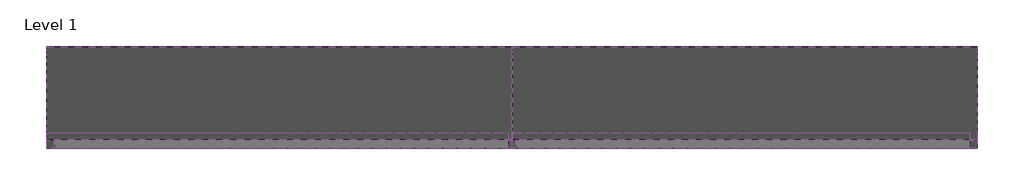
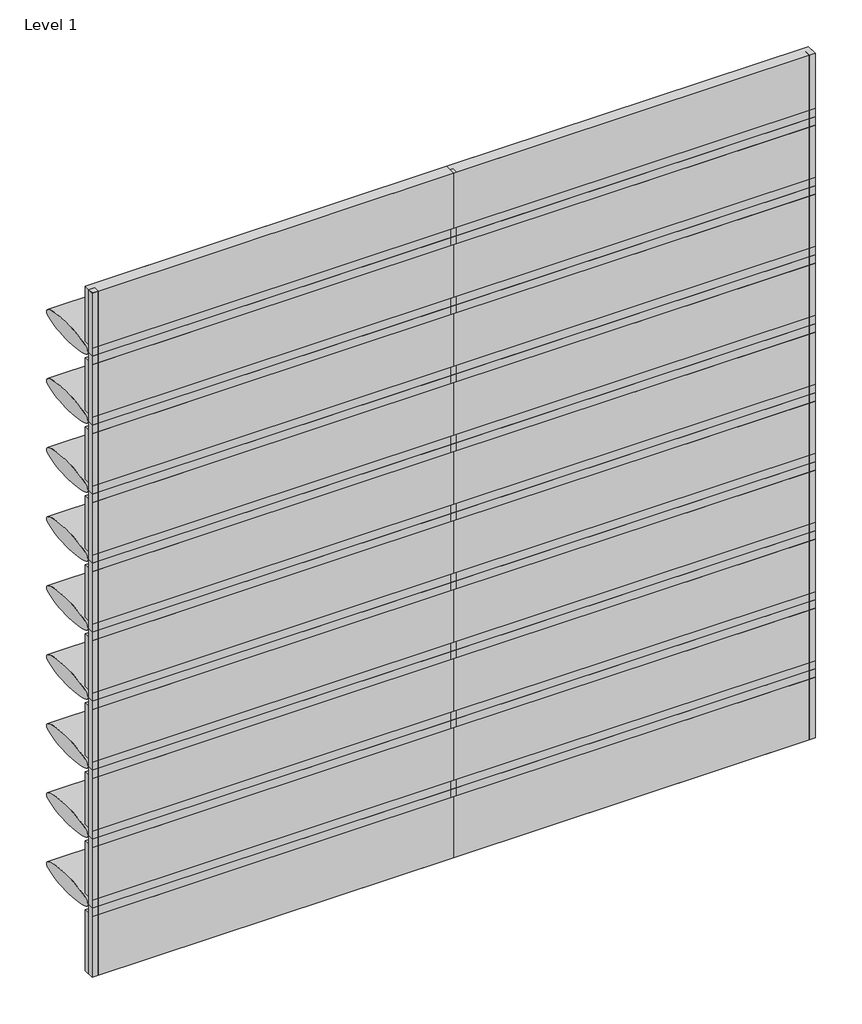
# One storey: 48 members, 40 plates.
"""IFC4 building model written with IfcOpenShell, lengths in millimetres."""

from ifc_helpers import new_model, si_unit, origin, place, context, project, spatial, transform, mapped, element, save
from components import rectangular_mullion_382eacee, rectangular_mullion_543a06af, rectangular_mullion_fcffcf6d, rectangular_mullion_1c998518, rectangular_mullion_4d0e3d15, rectangular_mullion_d8201ae5, rectangular_mullion_6e5ba28d, empty_system_panel_empty_3d88d0b6, empty_system_panel_empty_78674245, empty_system_panel_empty_4af019a5, empty_system_panel_empty_714687c1, empty_system_panel_empty_0677d599

model = new_model("IFC4")

# Units and contexts
model_context = context("Model", 3, world=origin())
ifc_project = project(units=[si_unit("LENGTHUNIT", "METRE", prefix="MILLI")], contexts=[model_context])

# Site, building, storey
site = spatial("IfcSite", under=ifc_project)
building = spatial("IfcBuilding", under=site)
storey = spatial("IfcBuildingStorey", under=building, Name="Level 1", Elevation=0.0)

# Members
placement = place(None, origin())
rectangular_mullion_shape = rectangular_mullion_382eacee(model_context)
element("IfcMember", 1, ObjectType="Rectangular Mullion : RSen_21_CWM_blade - wing 600 - 0° perforated_gen_duco projects", at=placement, inside=storey, context=model_context, shape_type="MappedRepresentation", body=[
    mapped(rectangular_mullion_shape, transform((3000.0, 3000.0, 605.0), x_axis=(0.0, 0.0, 1.0), y_axis=(0.0, 1.0, 0.0), z_axis=(-1.0, 0.0, 0.0))),
])
element("IfcMember", 2, ObjectType="Rectangular Mullion : RSen_21_CWM_blade - wing 600 - 0° perforated_gen_duco projects", at=placement, inside=storey, context=model_context, shape_type="MappedRepresentation", body=[
    mapped(rectangular_mullion_shape, transform((3000.0, 3000.0, 1210.0), x_axis=(0.0, 0.0, 1.0), y_axis=(0.0, 1.0, 0.0), z_axis=(-1.0, 0.0, 0.0))),
])
element("IfcMember", 3, ObjectType="Rectangular Mullion : RSen_21_CWM_blade - wing 600 - 0° perforated_gen_duco projects", at=placement, inside=storey, context=model_context, shape_type="MappedRepresentation", body=[
    mapped(rectangular_mullion_shape, transform((3000.0, 3000.0, 1815.0), x_axis=(0.0, 0.0, 1.0), y_axis=(0.0, 1.0, 0.0), z_axis=(-1.0, 0.0, 0.0))),
])
element("IfcMember", 4, ObjectType="Rectangular Mullion : RSen_21_CWM_blade - wing 600 - 0° perforated_gen_duco projects", at=placement, inside=storey, context=model_context, shape_type="MappedRepresentation", body=[
    mapped(rectangular_mullion_shape, transform((3000.0, 3000.0, 2420.0), x_axis=(0.0, 0.0, 1.0), y_axis=(0.0, 1.0, 0.0), z_axis=(-1.0, 0.0, 0.0))),
])
element("IfcMember", 5, ObjectType="Rectangular Mullion : RSen_21_CWM_blade - wing 600 - 0° perforated_gen_duco projects", at=placement, inside=storey, context=model_context, shape_type="MappedRepresentation", body=[
    mapped(rectangular_mullion_shape, transform((3000.0, 3000.0, 3025.0), x_axis=(0.0, 0.0, 1.0), y_axis=(0.0, 1.0, 0.0), z_axis=(-1.0, 0.0, 0.0))),
])
element("IfcMember", 6, ObjectType="Rectangular Mullion : RSen_21_CWM_blade - wing 600 - 0° perforated_gen_duco projects", at=placement, inside=storey, context=model_context, shape_type="MappedRepresentation", body=[
    mapped(rectangular_mullion_shape, transform((3000.0, 3000.0, 3630.0), x_axis=(0.0, 0.0, 1.0), y_axis=(0.0, 1.0, 0.0), z_axis=(-1.0, 0.0, 0.0))),
])
element("IfcMember", 7, ObjectType="Rectangular Mullion : RSen_21_CWM_blade - wing 600 - 0° perforated_gen_duco projects", at=placement, inside=storey, context=model_context, shape_type="MappedRepresentation", body=[
    mapped(rectangular_mullion_shape, transform((3000.0, 3000.0, 4235.0), x_axis=(0.0, 0.0, 1.0), y_axis=(0.0, 1.0, 0.0), z_axis=(-1.0, 0.0, 0.0))),
])
element("IfcMember", 8, ObjectType="Rectangular Mullion : RSen_21_CWM_blade - wing 600 - 0° perforated_gen_duco projects", at=placement, inside=storey, context=model_context, shape_type="MappedRepresentation", body=[
    mapped(rectangular_mullion_shape, transform((3000.0, 3000.0, 4840.0), x_axis=(0.0, 0.0, 1.0), y_axis=(0.0, 1.0, 0.0), z_axis=(-1.0, 0.0, 0.0))),
])
element("IfcMember", 9, ObjectType="Rectangular Mullion : RSen_21_CWM_blade - wing 600 - 0° perforated_gen_duco projects", at=placement, inside=storey, context=model_context, shape_type="MappedRepresentation", body=[
    mapped(rectangular_mullion_shape, transform((3000.0, 3000.0, 5445.0), x_axis=(0.0, 0.0, 1.0), y_axis=(0.0, 1.0, 0.0), z_axis=(-1.0, 0.0, 0.0))),
])
element("IfcMember", 10, ObjectType="Rectangular Mullion : RSen_21_CWM_blade - wing 600 - 0° perforated_gen_duco projects", at=placement, inside=storey, context=model_context, shape_type="MappedRepresentation", body=[
    mapped(rectangular_mullion_shape, transform((0.0, 3000.0, 605.0), x_axis=(0.0, 0.0, 1.0), y_axis=(0.0, 1.0, 0.0), z_axis=(-1.0, 0.0, 0.0))),
])
element("IfcMember", 11, ObjectType="Rectangular Mullion : RSen_21_CWM_blade - wing 600 - 0° perforated_gen_duco projects", at=placement, inside=storey, context=model_context, shape_type="MappedRepresentation", body=[
    mapped(rectangular_mullion_shape, transform((0.0, 3000.0, 1210.0), x_axis=(0.0, 0.0, 1.0), y_axis=(0.0, 1.0, 0.0), z_axis=(-1.0, 0.0, 0.0))),
])
element("IfcMember", 12, ObjectType="Rectangular Mullion : RSen_21_CWM_blade - wing 600 - 0° perforated_gen_duco projects", at=placement, inside=storey, context=model_context, shape_type="MappedRepresentation", body=[
    mapped(rectangular_mullion_shape, transform((0.0, 3000.0, 1815.0), x_axis=(0.0, 0.0, 1.0), y_axis=(0.0, 1.0, 0.0), z_axis=(-1.0, 0.0, 0.0))),
])
element("IfcMember", 13, ObjectType="Rectangular Mullion : RSen_21_CWM_blade - wing 600 - 0° perforated_gen_duco projects", at=placement, inside=storey, context=model_context, shape_type="MappedRepresentation", body=[
    mapped(rectangular_mullion_shape, transform((0.0, 3000.0, 2420.0), x_axis=(0.0, 0.0, 1.0), y_axis=(0.0, 1.0, 0.0), z_axis=(-1.0, 0.0, 0.0))),
])
element("IfcMember", 14, ObjectType="Rectangular Mullion : RSen_21_CWM_blade - wing 600 - 0° perforated_gen_duco projects", at=placement, inside=storey, context=model_context, shape_type="MappedRepresentation", body=[
    mapped(rectangular_mullion_shape, transform((0.0, 3000.0, 3025.0), x_axis=(0.0, 0.0, 1.0), y_axis=(0.0, 1.0, 0.0), z_axis=(-1.0, 0.0, 0.0))),
])
element("IfcMember", 15, ObjectType="Rectangular Mullion : RSen_21_CWM_blade - wing 600 - 0° perforated_gen_duco projects", at=placement, inside=storey, context=model_context, shape_type="MappedRepresentation", body=[
    mapped(rectangular_mullion_shape, transform((0.0, 3000.0, 3630.0), x_axis=(0.0, 0.0, 1.0), y_axis=(0.0, 1.0, 0.0), z_axis=(-1.0, 0.0, 0.0))),
])
element("IfcMember", 16, ObjectType="Rectangular Mullion : RSen_21_CWM_blade - wing 600 - 0° perforated_gen_duco projects", at=placement, inside=storey, context=model_context, shape_type="MappedRepresentation", body=[
    mapped(rectangular_mullion_shape, transform((0.0, 3000.0, 4235.0), x_axis=(0.0, 0.0, 1.0), y_axis=(0.0, 1.0, 0.0), z_axis=(-1.0, 0.0, 0.0))),
])
element("IfcMember", 17, ObjectType="Rectangular Mullion : RSen_21_CWM_blade - wing 600 - 0° perforated_gen_duco projects", at=placement, inside=storey, context=model_context, shape_type="MappedRepresentation", body=[
    mapped(rectangular_mullion_shape, transform((0.0, 3000.0, 4840.0), x_axis=(0.0, 0.0, 1.0), y_axis=(0.0, 1.0, 0.0), z_axis=(-1.0, 0.0, 0.0))),
])
element("IfcMember", 18, ObjectType="Rectangular Mullion : RSen_21_CWM_blade - wing 600 - 0° perforated_gen_duco projects", at=placement, inside=storey, context=model_context, shape_type="MappedRepresentation", body=[
    mapped(rectangular_mullion_shape, transform((0.0, 3000.0, 5445.0), x_axis=(0.0, 0.0, 1.0), y_axis=(0.0, 1.0, 0.0), z_axis=(-1.0, 0.0, 0.0))),
])
rectangular_mullion_2_shape = rectangular_mullion_543a06af(model_context)
element("IfcMember", 19, ObjectType="Rectangular Mullion : RSen_21_CWM_support profile 50x50_gen_duco projects", at=placement, inside=storey, context=model_context, shape_type="MappedRepresentation", body=[
    mapped(rectangular_mullion_2_shape, transform((3000.0, 3000.0, 0.0), x_axis=(-1.0, 0.0, 0.0), y_axis=(0.0, 1.0, 0.0), z_axis=(0.0, 0.0, -1.0))),
])
element("IfcMember", 20, ObjectType="Rectangular Mullion : RSen_21_CWM_support profile 50x50_gen_duco projects", at=placement, inside=storey, context=model_context, shape_type="MappedRepresentation", body=[
    mapped(rectangular_mullion_2_shape, transform((3000.0, 3000.0, 605.0), x_axis=(-1.0, 0.0, 0.0), y_axis=(0.0, 1.0, 0.0), z_axis=(0.0, 0.0, -1.0))),
])
element("IfcMember", 21, ObjectType="Rectangular Mullion : RSen_21_CWM_support profile 50x50_gen_duco projects", at=placement, inside=storey, context=model_context, shape_type="MappedRepresentation", body=[
    mapped(rectangular_mullion_2_shape, transform((3000.0, 3000.0, 1210.0), x_axis=(-1.0, 0.0, 0.0), y_axis=(0.0, 1.0, 0.0), z_axis=(0.0, 0.0, -1.0))),
])
element("IfcMember", 22, ObjectType="Rectangular Mullion : RSen_21_CWM_support profile 50x50_gen_duco projects", at=placement, inside=storey, context=model_context, shape_type="MappedRepresentation", body=[
    mapped(rectangular_mullion_2_shape, transform((3000.0, 3000.0, 1815.0), x_axis=(-1.0, 0.0, 0.0), y_axis=(0.0, 1.0, 0.0), z_axis=(0.0, 0.0, -1.0))),
])
element("IfcMember", 23, ObjectType="Rectangular Mullion : RSen_21_CWM_support profile 50x50_gen_duco projects", at=placement, inside=storey, context=model_context, shape_type="MappedRepresentation", body=[
    mapped(rectangular_mullion_2_shape, transform((3000.0, 3000.0, 2420.0), x_axis=(-1.0, 0.0, 0.0), y_axis=(0.0, 1.0, 0.0), z_axis=(0.0, 0.0, -1.0))),
])
element("IfcMember", 24, ObjectType="Rectangular Mullion : RSen_21_CWM_support profile 50x50_gen_duco projects", at=placement, inside=storey, context=model_context, shape_type="MappedRepresentation", body=[
    mapped(rectangular_mullion_2_shape, transform((3000.0, 3000.0, 3025.0), x_axis=(-1.0, 0.0, 0.0), y_axis=(0.0, 1.0, 0.0), z_axis=(0.0, 0.0, -1.0))),
])
element("IfcMember", 25, ObjectType="Rectangular Mullion : RSen_21_CWM_support profile 50x50_gen_duco projects", at=placement, inside=storey, context=model_context, shape_type="MappedRepresentation", body=[
    mapped(rectangular_mullion_2_shape, transform((3000.0, 3000.0, 3630.0), x_axis=(-1.0, 0.0, 0.0), y_axis=(0.0, 1.0, 0.0), z_axis=(0.0, 0.0, -1.0))),
])
element("IfcMember", 26, ObjectType="Rectangular Mullion : RSen_21_CWM_support profile 50x50_gen_duco projects", at=placement, inside=storey, context=model_context, shape_type="MappedRepresentation", body=[
    mapped(rectangular_mullion_2_shape, transform((3000.0, 3000.0, 4235.0), x_axis=(-1.0, 0.0, 0.0), y_axis=(0.0, 1.0, 0.0), z_axis=(0.0, 0.0, -1.0))),
])
element("IfcMember", 27, ObjectType="Rectangular Mullion : RSen_21_CWM_support profile 50x50_gen_duco projects", at=placement, inside=storey, context=model_context, shape_type="MappedRepresentation", body=[
    mapped(rectangular_mullion_2_shape, transform((3000.0, 3000.0, 4840.0), x_axis=(-1.0, 0.0, 0.0), y_axis=(0.0, 1.0, 0.0), z_axis=(0.0, 0.0, -1.0))),
])
rectangular_mullion_3_shape = rectangular_mullion_fcffcf6d(model_context)
element("IfcMember", 28, ObjectType="Rectangular Mullion : RSen_21_CWM_support profile 50x50_gen_duco projects", at=placement, inside=storey, context=model_context, shape_type="MappedRepresentation", body=[
    mapped(rectangular_mullion_3_shape, transform((3000.0, 3000.0, 5445.0), x_axis=(-1.0, 0.0, 0.0), y_axis=(0.0, 1.0, 0.0), z_axis=(0.0, 0.0, -1.0))),
])
rectangular_mullion_4_shape = rectangular_mullion_1c998518(model_context)
element("IfcMember", 29, ObjectType="Rectangular Mullion : RSen_21_CWM_support profile 50x50 - left_gen_duco projects", at=placement, inside=storey, context=model_context, shape_type="MappedRepresentation", body=[
    mapped(rectangular_mullion_4_shape, transform((0.0, 3000.0, 0.0), x_axis=(-1.0, 0.0, 0.0), y_axis=(0.0, 1.0, 0.0), z_axis=(0.0, 0.0, -1.0))),
])
rectangular_mullion_5_shape = rectangular_mullion_4d0e3d15(model_context)
element("IfcMember", 30, ObjectType="Rectangular Mullion : RSen_21_CWM_support profile 50x50 - right_gen_duco projects", at=placement, inside=storey, context=model_context, shape_type="MappedRepresentation", body=[
    mapped(rectangular_mullion_5_shape, transform((6000.0, 3000.0, 6000.0), x_axis=(1.0, 0.0, 0.0), y_axis=(0.0, 1.0, 0.0), z_axis=(0.0, 0.0, 1.0))),
])
element("IfcMember", 31, ObjectType="Rectangular Mullion : RSen_21_CWM_support profile 50x50 - left_gen_duco projects", at=placement, inside=storey, context=model_context, shape_type="MappedRepresentation", body=[
    mapped(rectangular_mullion_4_shape, transform((0.0, 3000.0, 605.0), x_axis=(-1.0, 0.0, 0.0), y_axis=(0.0, 1.0, 0.0), z_axis=(0.0, 0.0, -1.0))),
])
element("IfcMember", 32, ObjectType="Rectangular Mullion : RSen_21_CWM_support profile 50x50 - left_gen_duco projects", at=placement, inside=storey, context=model_context, shape_type="MappedRepresentation", body=[
    mapped(rectangular_mullion_4_shape, transform((0.0, 3000.0, 1210.0), x_axis=(-1.0, 0.0, 0.0), y_axis=(0.0, 1.0, 0.0), z_axis=(0.0, 0.0, -1.0))),
])
element("IfcMember", 33, ObjectType="Rectangular Mullion : RSen_21_CWM_support profile 50x50 - left_gen_duco projects", at=placement, inside=storey, context=model_context, shape_type="MappedRepresentation", body=[
    mapped(rectangular_mullion_4_shape, transform((0.0, 3000.0, 1815.0), x_axis=(-1.0, 0.0, 0.0), y_axis=(0.0, 1.0, 0.0), z_axis=(0.0, 0.0, -1.0))),
])
element("IfcMember", 34, ObjectType="Rectangular Mullion : RSen_21_CWM_support profile 50x50 - left_gen_duco projects", at=placement, inside=storey, context=model_context, shape_type="MappedRepresentation", body=[
    mapped(rectangular_mullion_4_shape, transform((0.0, 3000.0, 2420.0), x_axis=(-1.0, 0.0, 0.0), y_axis=(0.0, 1.0, 0.0), z_axis=(0.0, 0.0, -1.0))),
])
element("IfcMember", 35, ObjectType="Rectangular Mullion : RSen_21_CWM_support profile 50x50 - left_gen_duco projects", at=placement, inside=storey, context=model_context, shape_type="MappedRepresentation", body=[
    mapped(rectangular_mullion_4_shape, transform((0.0, 3000.0, 3025.0), x_axis=(-1.0, 0.0, 0.0), y_axis=(0.0, 1.0, 0.0), z_axis=(0.0, 0.0, -1.0))),
])
element("IfcMember", 36, ObjectType="Rectangular Mullion : RSen_21_CWM_support profile 50x50 - left_gen_duco projects", at=placement, inside=storey, context=model_context, shape_type="MappedRepresentation", body=[
    mapped(rectangular_mullion_4_shape, transform((0.0, 3000.0, 3630.0), x_axis=(-1.0, 0.0, 0.0), y_axis=(0.0, 1.0, 0.0), z_axis=(0.0, 0.0, -1.0))),
])
element("IfcMember", 37, ObjectType="Rectangular Mullion : RSen_21_CWM_support profile 50x50 - left_gen_duco projects", at=placement, inside=storey, context=model_context, shape_type="MappedRepresentation", body=[
    mapped(rectangular_mullion_4_shape, transform((0.0, 3000.0, 4235.0), x_axis=(-1.0, 0.0, 0.0), y_axis=(0.0, 1.0, 0.0), z_axis=(0.0, 0.0, -1.0))),
])
element("IfcMember", 38, ObjectType="Rectangular Mullion : RSen_21_CWM_support profile 50x50 - left_gen_duco projects", at=placement, inside=storey, context=model_context, shape_type="MappedRepresentation", body=[
    mapped(rectangular_mullion_4_shape, transform((0.0, 3000.0, 4840.0), x_axis=(-1.0, 0.0, 0.0), y_axis=(0.0, 1.0, 0.0), z_axis=(0.0, 0.0, -1.0))),
])
rectangular_mullion_6_shape = rectangular_mullion_d8201ae5(model_context)
element("IfcMember", 39, ObjectType="Rectangular Mullion : RSen_21_CWM_support profile 50x50 - left_gen_duco projects", at=placement, inside=storey, context=model_context, shape_type="MappedRepresentation", body=[
    mapped(rectangular_mullion_6_shape, transform((0.0, 3000.0, 5445.0), x_axis=(-1.0, 0.0, 0.0), y_axis=(0.0, 1.0, 0.0), z_axis=(0.0, 0.0, -1.0))),
])
rectangular_mullion_7_shape = rectangular_mullion_6e5ba28d(model_context)
element("IfcMember", 40, ObjectType="Rectangular Mullion : RSen_21_CWM_support profile 50x50 - right_gen_duco projects", at=placement, inside=storey, context=model_context, shape_type="MappedRepresentation", body=[
    mapped(rectangular_mullion_7_shape, transform((6000.0, 3000.0, 605.0), x_axis=(1.0, 0.0, 0.0), y_axis=(0.0, 1.0, 0.0), z_axis=(0.0, 0.0, 1.0))),
])
element("IfcMember", 41, ObjectType="Rectangular Mullion : RSen_21_CWM_support profile 50x50 - right_gen_duco projects", at=placement, inside=storey, context=model_context, shape_type="MappedRepresentation", body=[
    mapped(rectangular_mullion_7_shape, transform((6000.0, 3000.0, 1210.0), x_axis=(1.0, 0.0, 0.0), y_axis=(0.0, 1.0, 0.0), z_axis=(0.0, 0.0, 1.0))),
])
element("IfcMember", 42, ObjectType="Rectangular Mullion : RSen_21_CWM_support profile 50x50 - right_gen_duco projects", at=placement, inside=storey, context=model_context, shape_type="MappedRepresentation", body=[
    mapped(rectangular_mullion_7_shape, transform((6000.0, 3000.0, 1815.0), x_axis=(1.0, 0.0, 0.0), y_axis=(0.0, 1.0, 0.0), z_axis=(0.0, 0.0, 1.0))),
])
element("IfcMember", 43, ObjectType="Rectangular Mullion : RSen_21_CWM_support profile 50x50 - right_gen_duco projects", at=placement, inside=storey, context=model_context, shape_type="MappedRepresentation", body=[
    mapped(rectangular_mullion_7_shape, transform((6000.0, 3000.0, 2420.0), x_axis=(1.0, 0.0, 0.0), y_axis=(0.0, 1.0, 0.0), z_axis=(0.0, 0.0, 1.0))),
])
element("IfcMember", 44, ObjectType="Rectangular Mullion : RSen_21_CWM_support profile 50x50 - right_gen_duco projects", at=placement, inside=storey, context=model_context, shape_type="MappedRepresentation", body=[
    mapped(rectangular_mullion_7_shape, transform((6000.0, 3000.0, 3025.0), x_axis=(1.0, 0.0, 0.0), y_axis=(0.0, 1.0, 0.0), z_axis=(0.0, 0.0, 1.0))),
])
element("IfcMember", 45, ObjectType="Rectangular Mullion : RSen_21_CWM_support profile 50x50 - right_gen_duco projects", at=placement, inside=storey, context=model_context, shape_type="MappedRepresentation", body=[
    mapped(rectangular_mullion_7_shape, transform((6000.0, 3000.0, 3630.0), x_axis=(1.0, 0.0, 0.0), y_axis=(0.0, 1.0, 0.0), z_axis=(0.0, 0.0, 1.0))),
])
element("IfcMember", 46, ObjectType="Rectangular Mullion : RSen_21_CWM_support profile 50x50 - right_gen_duco projects", at=placement, inside=storey, context=model_context, shape_type="MappedRepresentation", body=[
    mapped(rectangular_mullion_7_shape, transform((6000.0, 3000.0, 4235.0), x_axis=(1.0, 0.0, 0.0), y_axis=(0.0, 1.0, 0.0), z_axis=(0.0, 0.0, 1.0))),
])
element("IfcMember", 47, ObjectType="Rectangular Mullion : RSen_21_CWM_support profile 50x50 - right_gen_duco projects", at=placement, inside=storey, context=model_context, shape_type="MappedRepresentation", body=[
    mapped(rectangular_mullion_7_shape, transform((6000.0, 3000.0, 4840.0), x_axis=(1.0, 0.0, 0.0), y_axis=(0.0, 1.0, 0.0), z_axis=(0.0, 0.0, 1.0))),
])
element("IfcMember", 48, ObjectType="Rectangular Mullion : RSen_21_CWM_support profile 50x50 - right_gen_duco projects", at=placement, inside=storey, context=model_context, shape_type="MappedRepresentation", body=[
    mapped(rectangular_mullion_7_shape, transform((6000.0, 3000.0, 5445.0), x_axis=(1.0, 0.0, 0.0), y_axis=(0.0, 1.0, 0.0), z_axis=(0.0, 0.0, 1.0))),
])

# Plates
empty_system_panel_empty_shape = empty_system_panel_empty_3d88d0b6(model_context)
element("IfcPlate", 49, ObjectType="Empty System Panel : Empty", at=placement, inside=storey, context=model_context, shape_type="MappedRepresentation", body=[
    mapped(empty_system_panel_empty_shape, transform((4500.0, 3000.0, 0.0), x_axis=(-1.0, 0.0, 0.0), y_axis=(0.0, -1.0, 0.0), z_axis=(0.0, 0.0, 1.0))),
])
element("IfcPlate", 50, ObjectType="Empty System Panel : Empty", at=placement, inside=storey, context=model_context, shape_type="MappedRepresentation", body=[
    mapped(empty_system_panel_empty_shape, transform((1500.0, 3000.0, 0.0), x_axis=(-1.0, 0.0, 0.0), y_axis=(0.0, -1.0, 0.0), z_axis=(0.0, 0.0, 1.0))),
])
empty_system_panel_empty_2_shape = empty_system_panel_empty_78674245(model_context)
element("IfcPlate", 51, ObjectType="Empty System Panel : Empty", at=placement, inside=storey, context=model_context, shape_type="MappedRepresentation", body=[
    mapped(empty_system_panel_empty_2_shape, transform((4500.0, 3000.0, 678.0), x_axis=(-1.0, 0.0, 0.0), y_axis=(0.0, -1.0, 0.0), z_axis=(0.0, 0.0, 1.0))),
])
element("IfcPlate", 52, ObjectType="Empty System Panel : Empty", at=placement, inside=storey, context=model_context, shape_type="MappedRepresentation", body=[
    mapped(empty_system_panel_empty_2_shape, transform((1500.0, 3000.0, 678.0), x_axis=(-1.0, 0.0, 0.0), y_axis=(0.0, -1.0, 0.0), z_axis=(0.0, 0.0, 1.0))),
])
element("IfcPlate", 53, ObjectType="Empty System Panel : Empty", at=placement, inside=storey, context=model_context, shape_type="MappedRepresentation", body=[
    mapped(empty_system_panel_empty_2_shape, transform((4500.0, 3000.0, 1283.0), x_axis=(-1.0, 0.0, 0.0), y_axis=(0.0, -1.0, 0.0), z_axis=(0.0, 0.0, 1.0))),
])
element("IfcPlate", 54, ObjectType="Empty System Panel : Empty", at=placement, inside=storey, context=model_context, shape_type="MappedRepresentation", body=[
    mapped(empty_system_panel_empty_2_shape, transform((1500.0, 3000.0, 1283.0), x_axis=(-1.0, 0.0, 0.0), y_axis=(0.0, -1.0, 0.0), z_axis=(0.0, 0.0, 1.0))),
])
element("IfcPlate", 55, ObjectType="Empty System Panel : Empty", at=placement, inside=storey, context=model_context, shape_type="MappedRepresentation", body=[
    mapped(empty_system_panel_empty_2_shape, transform((4500.0, 3000.0, 1888.0), x_axis=(-1.0, 0.0, 0.0), y_axis=(0.0, -1.0, 0.0), z_axis=(0.0, 0.0, 1.0))),
])
element("IfcPlate", 56, ObjectType="Empty System Panel : Empty", at=placement, inside=storey, context=model_context, shape_type="MappedRepresentation", body=[
    mapped(empty_system_panel_empty_2_shape, transform((1500.0, 3000.0, 1888.0), x_axis=(-1.0, 0.0, 0.0), y_axis=(0.0, -1.0, 0.0), z_axis=(0.0, 0.0, 1.0))),
])
element("IfcPlate", 57, ObjectType="Empty System Panel : Empty", at=placement, inside=storey, context=model_context, shape_type="MappedRepresentation", body=[
    mapped(empty_system_panel_empty_2_shape, transform((4500.0, 3000.0, 2493.0), x_axis=(-1.0, 0.0, 0.0), y_axis=(0.0, -1.0, 0.0), z_axis=(0.0, 0.0, 1.0))),
])
element("IfcPlate", 58, ObjectType="Empty System Panel : Empty", at=placement, inside=storey, context=model_context, shape_type="MappedRepresentation", body=[
    mapped(empty_system_panel_empty_2_shape, transform((1500.0, 3000.0, 2493.0), x_axis=(-1.0, 0.0, 0.0), y_axis=(0.0, -1.0, 0.0), z_axis=(0.0, 0.0, 1.0))),
])
element("IfcPlate", 59, ObjectType="Empty System Panel : Empty", at=placement, inside=storey, context=model_context, shape_type="MappedRepresentation", body=[
    mapped(empty_system_panel_empty_2_shape, transform((4500.0, 3000.0, 3098.0), x_axis=(-1.0, 0.0, 0.0), y_axis=(0.0, -1.0, 0.0), z_axis=(0.0, 0.0, 1.0))),
])
element("IfcPlate", 60, ObjectType="Empty System Panel : Empty", at=placement, inside=storey, context=model_context, shape_type="MappedRepresentation", body=[
    mapped(empty_system_panel_empty_2_shape, transform((1500.0, 3000.0, 3098.0), x_axis=(-1.0, 0.0, 0.0), y_axis=(0.0, -1.0, 0.0), z_axis=(0.0, 0.0, 1.0))),
])
element("IfcPlate", 61, ObjectType="Empty System Panel : Empty", at=placement, inside=storey, context=model_context, shape_type="MappedRepresentation", body=[
    mapped(empty_system_panel_empty_2_shape, transform((4500.0, 3000.0, 3703.0), x_axis=(-1.0, 0.0, 0.0), y_axis=(0.0, -1.0, 0.0), z_axis=(0.0, 0.0, 1.0))),
])
element("IfcPlate", 62, ObjectType="Empty System Panel : Empty", at=placement, inside=storey, context=model_context, shape_type="MappedRepresentation", body=[
    mapped(empty_system_panel_empty_2_shape, transform((1500.0, 3000.0, 3703.0), x_axis=(-1.0, 0.0, 0.0), y_axis=(0.0, -1.0, 0.0), z_axis=(0.0, 0.0, 1.0))),
])
element("IfcPlate", 63, ObjectType="Empty System Panel : Empty", at=placement, inside=storey, context=model_context, shape_type="MappedRepresentation", body=[
    mapped(empty_system_panel_empty_2_shape, transform((4500.0, 3000.0, 4308.0), x_axis=(-1.0, 0.0, 0.0), y_axis=(0.0, -1.0, 0.0), z_axis=(0.0, 0.0, 1.0))),
])
element("IfcPlate", 64, ObjectType="Empty System Panel : Empty", at=placement, inside=storey, context=model_context, shape_type="MappedRepresentation", body=[
    mapped(empty_system_panel_empty_2_shape, transform((1500.0, 3000.0, 4308.0), x_axis=(-1.0, 0.0, 0.0), y_axis=(0.0, -1.0, 0.0), z_axis=(0.0, 0.0, 1.0))),
])
element("IfcPlate", 65, ObjectType="Empty System Panel : Empty", at=placement, inside=storey, context=model_context, shape_type="MappedRepresentation", body=[
    mapped(empty_system_panel_empty_2_shape, transform((4500.0, 3000.0, 4913.0), x_axis=(-1.0, 0.0, 0.0), y_axis=(0.0, -1.0, 0.0), z_axis=(0.0, 0.0, 1.0))),
])
element("IfcPlate", 66, ObjectType="Empty System Panel : Empty", at=placement, inside=storey, context=model_context, shape_type="MappedRepresentation", body=[
    mapped(empty_system_panel_empty_2_shape, transform((1500.0, 3000.0, 4913.0), x_axis=(-1.0, 0.0, 0.0), y_axis=(0.0, -1.0, 0.0), z_axis=(0.0, 0.0, 1.0))),
])
empty_system_panel_empty_3_shape = empty_system_panel_empty_4af019a5(model_context)
element("IfcPlate", 67, ObjectType="Empty System Panel : Empty", at=placement, inside=storey, context=model_context, shape_type="MappedRepresentation", body=[
    mapped(empty_system_panel_empty_3_shape, transform((4500.0, 3000.0, 5518.0), x_axis=(-1.0, 0.0, 0.0), y_axis=(0.0, -1.0, 0.0), z_axis=(0.0, 0.0, 1.0))),
])
element("IfcPlate", 68, ObjectType="Empty System Panel : Empty", at=placement, inside=storey, context=model_context, shape_type="MappedRepresentation", body=[
    mapped(empty_system_panel_empty_3_shape, transform((1500.0, 3000.0, 5518.0), x_axis=(-1.0, 0.0, 0.0), y_axis=(0.0, -1.0, 0.0), z_axis=(0.0, 0.0, 1.0))),
])
empty_system_panel_empty_4_shape = empty_system_panel_empty_714687c1(model_context)
element("IfcPlate", 69, ObjectType="Empty System Panel : Empty", at=placement, inside=storey, context=model_context, shape_type="MappedRepresentation", body=[
    mapped(empty_system_panel_empty_4_shape, transform((4487.5, 3000.0, 0.0), x_axis=(-1.0, 0.0, 0.0), y_axis=(0.0, -1.0, 0.0), z_axis=(0.0, 0.0, 1.0))),
])
element("IfcPlate", 70, ObjectType="Empty System Panel : Empty", at=placement, inside=storey, context=model_context, shape_type="MappedRepresentation", body=[
    mapped(empty_system_panel_empty_4_shape, transform((1512.5, 3000.0, 0.0), x_axis=(-1.0, 0.0, 0.0), y_axis=(0.0, -1.0, 0.0), z_axis=(0.0, 0.0, 1.0))),
])
element("IfcPlate", 71, ObjectType="Empty System Panel : Empty", at=placement, inside=storey, context=model_context, shape_type="MappedRepresentation", body=[
    mapped(empty_system_panel_empty_4_shape, transform((4487.5, 3000.0, 605.0), x_axis=(-1.0, 0.0, 0.0), y_axis=(0.0, -1.0, 0.0), z_axis=(0.0, 0.0, 1.0))),
])
element("IfcPlate", 72, ObjectType="Empty System Panel : Empty", at=placement, inside=storey, context=model_context, shape_type="MappedRepresentation", body=[
    mapped(empty_system_panel_empty_4_shape, transform((1512.5, 3000.0, 605.0), x_axis=(-1.0, 0.0, 0.0), y_axis=(0.0, -1.0, 0.0), z_axis=(0.0, 0.0, 1.0))),
])
element("IfcPlate", 73, ObjectType="Empty System Panel : Empty", at=placement, inside=storey, context=model_context, shape_type="MappedRepresentation", body=[
    mapped(empty_system_panel_empty_4_shape, transform((4487.5, 3000.0, 1210.0), x_axis=(-1.0, 0.0, 0.0), y_axis=(0.0, -1.0, 0.0), z_axis=(0.0, 0.0, 1.0))),
])
element("IfcPlate", 74, ObjectType="Empty System Panel : Empty", at=placement, inside=storey, context=model_context, shape_type="MappedRepresentation", body=[
    mapped(empty_system_panel_empty_4_shape, transform((1512.5, 3000.0, 1210.0), x_axis=(-1.0, 0.0, 0.0), y_axis=(0.0, -1.0, 0.0), z_axis=(0.0, 0.0, 1.0))),
])
element("IfcPlate", 75, ObjectType="Empty System Panel : Empty", at=placement, inside=storey, context=model_context, shape_type="MappedRepresentation", body=[
    mapped(empty_system_panel_empty_4_shape, transform((4487.5, 3000.0, 1815.0), x_axis=(-1.0, 0.0, 0.0), y_axis=(0.0, -1.0, 0.0), z_axis=(0.0, 0.0, 1.0))),
])
element("IfcPlate", 76, ObjectType="Empty System Panel : Empty", at=placement, inside=storey, context=model_context, shape_type="MappedRepresentation", body=[
    mapped(empty_system_panel_empty_4_shape, transform((1512.5, 3000.0, 1815.0), x_axis=(-1.0, 0.0, 0.0), y_axis=(0.0, -1.0, 0.0), z_axis=(0.0, 0.0, 1.0))),
])
element("IfcPlate", 77, ObjectType="Empty System Panel : Empty", at=placement, inside=storey, context=model_context, shape_type="MappedRepresentation", body=[
    mapped(empty_system_panel_empty_4_shape, transform((4487.5, 3000.0, 2420.0), x_axis=(-1.0, 0.0, 0.0), y_axis=(0.0, -1.0, 0.0), z_axis=(0.0, 0.0, 1.0))),
])
element("IfcPlate", 78, ObjectType="Empty System Panel : Empty", at=placement, inside=storey, context=model_context, shape_type="MappedRepresentation", body=[
    mapped(empty_system_panel_empty_4_shape, transform((1512.5, 3000.0, 2420.0), x_axis=(-1.0, 0.0, 0.0), y_axis=(0.0, -1.0, 0.0), z_axis=(0.0, 0.0, 1.0))),
])
element("IfcPlate", 79, ObjectType="Empty System Panel : Empty", at=placement, inside=storey, context=model_context, shape_type="MappedRepresentation", body=[
    mapped(empty_system_panel_empty_4_shape, transform((4487.5, 3000.0, 3025.0), x_axis=(-1.0, 0.0, 0.0), y_axis=(0.0, -1.0, 0.0), z_axis=(0.0, 0.0, 1.0))),
])
element("IfcPlate", 80, ObjectType="Empty System Panel : Empty", at=placement, inside=storey, context=model_context, shape_type="MappedRepresentation", body=[
    mapped(empty_system_panel_empty_4_shape, transform((1512.5, 3000.0, 3025.0), x_axis=(-1.0, 0.0, 0.0), y_axis=(0.0, -1.0, 0.0), z_axis=(0.0, 0.0, 1.0))),
])
element("IfcPlate", 81, ObjectType="Empty System Panel : Empty", at=placement, inside=storey, context=model_context, shape_type="MappedRepresentation", body=[
    mapped(empty_system_panel_empty_4_shape, transform((4487.5, 3000.0, 3630.0), x_axis=(-1.0, 0.0, 0.0), y_axis=(0.0, -1.0, 0.0), z_axis=(0.0, 0.0, 1.0))),
])
element("IfcPlate", 82, ObjectType="Empty System Panel : Empty", at=placement, inside=storey, context=model_context, shape_type="MappedRepresentation", body=[
    mapped(empty_system_panel_empty_4_shape, transform((1512.5, 3000.0, 3630.0), x_axis=(-1.0, 0.0, 0.0), y_axis=(0.0, -1.0, 0.0), z_axis=(0.0, 0.0, 1.0))),
])
element("IfcPlate", 83, ObjectType="Empty System Panel : Empty", at=placement, inside=storey, context=model_context, shape_type="MappedRepresentation", body=[
    mapped(empty_system_panel_empty_4_shape, transform((4487.5, 3000.0, 4235.0), x_axis=(-1.0, 0.0, 0.0), y_axis=(0.0, -1.0, 0.0), z_axis=(0.0, 0.0, 1.0))),
])
element("IfcPlate", 84, ObjectType="Empty System Panel : Empty", at=placement, inside=storey, context=model_context, shape_type="MappedRepresentation", body=[
    mapped(empty_system_panel_empty_4_shape, transform((1512.5, 3000.0, 4235.0), x_axis=(-1.0, 0.0, 0.0), y_axis=(0.0, -1.0, 0.0), z_axis=(0.0, 0.0, 1.0))),
])
element("IfcPlate", 85, ObjectType="Empty System Panel : Empty", at=placement, inside=storey, context=model_context, shape_type="MappedRepresentation", body=[
    mapped(empty_system_panel_empty_4_shape, transform((4487.5, 3000.0, 4840.0), x_axis=(-1.0, 0.0, 0.0), y_axis=(0.0, -1.0, 0.0), z_axis=(0.0, 0.0, 1.0))),
])
element("IfcPlate", 86, ObjectType="Empty System Panel : Empty", at=placement, inside=storey, context=model_context, shape_type="MappedRepresentation", body=[
    mapped(empty_system_panel_empty_4_shape, transform((1512.5, 3000.0, 4840.0), x_axis=(-1.0, 0.0, 0.0), y_axis=(0.0, -1.0, 0.0), z_axis=(0.0, 0.0, 1.0))),
])
empty_system_panel_empty_5_shape = empty_system_panel_empty_0677d599(model_context)
element("IfcPlate", 87, ObjectType="Empty System Panel : Empty", at=placement, inside=storey, context=model_context, shape_type="MappedRepresentation", body=[
    mapped(empty_system_panel_empty_5_shape, transform((4487.5, 3000.0, 5445.0), x_axis=(-1.0, 0.0, 0.0), y_axis=(0.0, -1.0, 0.0), z_axis=(0.0, 0.0, 1.0))),
])
element("IfcPlate", 88, ObjectType="Empty System Panel : Empty", at=placement, inside=storey, context=model_context, shape_type="MappedRepresentation", body=[
    mapped(empty_system_panel_empty_5_shape, transform((1512.5, 3000.0, 5445.0), x_axis=(-1.0, 0.0, 0.0), y_axis=(0.0, -1.0, 0.0), z_axis=(0.0, 0.0, 1.0))),
])

save(model, "model.ifc")
